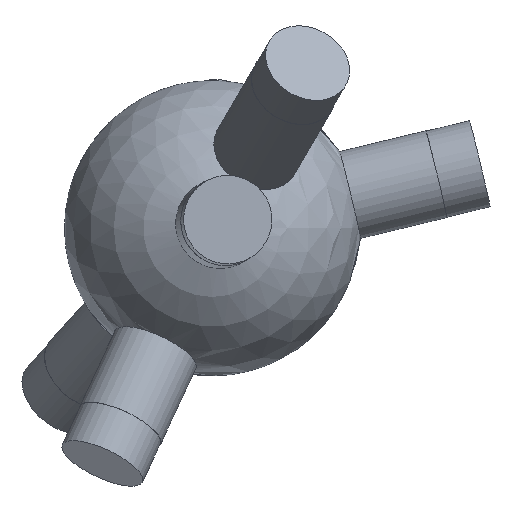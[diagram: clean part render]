
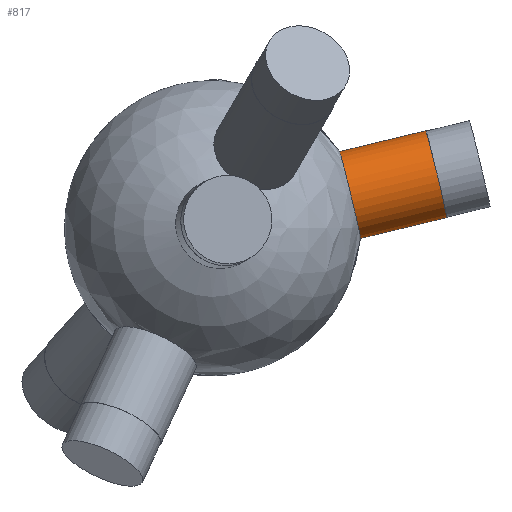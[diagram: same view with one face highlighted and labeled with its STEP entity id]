
A CAD part, top view. The second image highlights one B-rep face of the part: STEP entity #817.
In plain terms, the highlighted cylindrical face has radius 6 mm (diameter 12 mm), a full revolution.
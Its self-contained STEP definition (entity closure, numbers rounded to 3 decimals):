
#33 = SPHERICAL_SURFACE('',#34,20.);
#34 = AXIS2_PLACEMENT_3D('',#35,#36,#37);
#35 = CARTESIAN_POINT('',(0.,0.,0.));
#36 = DIRECTION('',(0.,0.,1.));
#37 = DIRECTION('',(1.,0.,-0.));
#61 = VERTEX_POINT('',#62);
#62 = CARTESIAN_POINT('',(19.694,0.,
    3.488));
#84 = EDGE_CURVE('',#85,#61,#87,.T.);
#85 = VERTEX_POINT('',#86);
#86 = CARTESIAN_POINT('',(17.138,10.304,
    -0.346));
#87 = SURFACE_CURVE('',#88,(#93,#120),.PCURVE_S1.);
#88 = CIRCLE('',#89,6.);
#89 = AXIS2_PLACEMENT_3D('',#90,#91,#92);
#90 = CARTESIAN_POINT('',(18.544,4.471,-0.346
    ));
#91 = DIRECTION('',(0.972,0.234,-0.018));
#92 = DIRECTION('',(-0.234,0.972,0.));
#93 = PCURVE('',#33,#94);
#94 = DEFINITIONAL_REPRESENTATION('',(#95),#119);
#95 = B_SPLINE_CURVE_WITH_KNOTS('',8,(#96,#97,#98,#99,#100,#101,#102,
    #103,#104,#105,#106,#107,#108,#109,#110,#111,#112,#113,#114,#115,
    #116,#117,#118),.UNSPECIFIED.,.F.,.F.,(9,7,7,9),(0.,0.612,
    1.53,2.448),.UNSPECIFIED.);
#96 = CARTESIAN_POINT('',(0.541,-0.017));
#97 = CARTESIAN_POINT('',(0.541,0.006));
#98 = CARTESIAN_POINT('',(0.539,0.029));
#99 = CARTESIAN_POINT('',(0.535,0.051));
#100 = CARTESIAN_POINT('',(0.529,0.074));
#101 = CARTESIAN_POINT('',(0.522,0.096));
#102 = CARTESIAN_POINT('',(0.512,0.117));
#103 = CARTESIAN_POINT('',(0.501,0.137));
#104 = CARTESIAN_POINT('',(0.468,0.184));
#105 = CARTESIAN_POINT('',(0.445,0.21));
#106 = CARTESIAN_POINT('',(0.418,0.233));
#107 = CARTESIAN_POINT('',(0.388,0.253));
#108 = CARTESIAN_POINT('',(0.355,0.268));
#109 = CARTESIAN_POINT('',(0.321,0.279));
#110 = CARTESIAN_POINT('',(0.285,0.285));
#111 = CARTESIAN_POINT('',(0.213,0.288));
#112 = CARTESIAN_POINT('',(0.177,0.285));
#113 = CARTESIAN_POINT('',(0.142,0.277));
#114 = CARTESIAN_POINT('',(0.108,0.264));
#115 = CARTESIAN_POINT('',(0.076,0.247));
#116 = CARTESIAN_POINT('',(0.047,0.226));
#117 = CARTESIAN_POINT('',(0.022,0.202));
#118 = CARTESIAN_POINT('',(0.,0.175));
#119 = ( GEOMETRIC_REPRESENTATION_CONTEXT(2) 
PARAMETRIC_REPRESENTATION_CONTEXT() REPRESENTATION_CONTEXT('2D SPACE',''
  ) );
#120 = PCURVE('',#121,#126);
#121 = CYLINDRICAL_SURFACE('',#122,6.);
#122 = AXIS2_PLACEMENT_3D('',#123,#124,#125);
#123 = CARTESIAN_POINT('',(0.,0.,0.));
#124 = DIRECTION('',(0.972,0.234,-0.018)
  );
#125 = DIRECTION('',(-0.234,0.972,0.)
  );
#126 = DEFINITIONAL_REPRESENTATION('',(#127),#131);
#127 = LINE('',#128,#129);
#128 = CARTESIAN_POINT('',(0.,19.079));
#129 = VECTOR('',#130,1.);
#130 = DIRECTION('',(1.,0.));
#131 = ( GEOMETRIC_REPRESENTATION_CONTEXT(2) 
PARAMETRIC_REPRESENTATION_CONTEXT() REPRESENTATION_CONTEXT('2D SPACE',''
  ) );
#133 = EDGE_CURVE('',#134,#85,#136,.T.);
#134 = VERTEX_POINT('',#135);
#135 = CARTESIAN_POINT('',(19.55,0.,
    -4.219));
#136 = SURFACE_CURVE('',#137,(#142,#169),.PCURVE_S1.);
#137 = CIRCLE('',#138,6.);
#138 = AXIS2_PLACEMENT_3D('',#139,#140,#141);
#139 = CARTESIAN_POINT('',(18.544,4.471,
    -0.346));
#140 = DIRECTION('',(0.972,0.234,-0.018)
  );
#141 = DIRECTION('',(-0.234,0.972,0.)
  );
#142 = PCURVE('',#33,#143);
#143 = DEFINITIONAL_REPRESENTATION('',(#144),#168);
#144 = B_SPLINE_CURVE_WITH_KNOTS('',8,(#145,#146,#147,#148,#149,#150,
    #151,#152,#153,#154,#155,#156,#157,#158,#159,#160,#161,#162,#163,
    #164,#165,#166,#167),.UNSPECIFIED.,.F.,.F.,(9,7,7,9),(3.843
    ,4.453,5.368,6.283),.UNSPECIFIED.);
#145 = CARTESIAN_POINT('',(0.,-0.213));
#146 = CARTESIAN_POINT('',(0.015,-0.23));
#147 = CARTESIAN_POINT('',(0.031,-0.247));
#148 = CARTESIAN_POINT('',(0.049,-0.262));
#149 = CARTESIAN_POINT('',(0.068,-0.276));
#150 = CARTESIAN_POINT('',(0.088,-0.288));
#151 = CARTESIAN_POINT('',(0.11,-0.298));
#152 = CARTESIAN_POINT('',(0.133,-0.306));
#153 = CARTESIAN_POINT('',(0.19,-0.322));
#154 = CARTESIAN_POINT('',(0.227,-0.326));
#155 = CARTESIAN_POINT('',(0.263,-0.326));
#156 = CARTESIAN_POINT('',(0.3,-0.321));
#157 = CARTESIAN_POINT('',(0.335,-0.312));
#158 = CARTESIAN_POINT('',(0.369,-0.298));
#159 = CARTESIAN_POINT('',(0.399,-0.279));
#160 = CARTESIAN_POINT('',(0.454,-0.236));
#161 = CARTESIAN_POINT('',(0.479,-0.211));
#162 = CARTESIAN_POINT('',(0.5,-0.183));
#163 = CARTESIAN_POINT('',(0.516,-0.152));
#164 = CARTESIAN_POINT('',(0.529,-0.12));
#165 = CARTESIAN_POINT('',(0.537,-0.086));
#166 = CARTESIAN_POINT('',(0.541,-0.052));
#167 = CARTESIAN_POINT('',(0.541,-0.017));
#168 = ( GEOMETRIC_REPRESENTATION_CONTEXT(2) 
PARAMETRIC_REPRESENTATION_CONTEXT() REPRESENTATION_CONTEXT('2D SPACE',''
  ) );
#169 = PCURVE('',#121,#170);
#170 = DEFINITIONAL_REPRESENTATION('',(#171),#175);
#171 = LINE('',#172,#173);
#172 = CARTESIAN_POINT('',(0.,19.079));
#173 = VECTOR('',#174,1.);
#174 = DIRECTION('',(1.,0.));
#175 = ( GEOMETRIC_REPRESENTATION_CONTEXT(2) 
PARAMETRIC_REPRESENTATION_CONTEXT() REPRESENTATION_CONTEXT('2D SPACE',''
  ) );
#202 = EDGE_CURVE('',#61,#134,#203,.T.);
#203 = SURFACE_CURVE('',#204,(#209,#227),.PCURVE_S1.);
#204 = CIRCLE('',#205,6.);
#205 = AXIS2_PLACEMENT_3D('',#206,#207,#208);
#206 = CARTESIAN_POINT('',(18.544,4.471,
    -0.346));
#207 = DIRECTION('',(0.972,0.234,-0.018)
  );
#208 = DIRECTION('',(-0.234,0.972,0.)
  );
#209 = PCURVE('',#33,#210);
#210 = DEFINITIONAL_REPRESENTATION('',(#211),#226);
#211 = B_SPLINE_CURVE_WITH_KNOTS('',7,(#212,#213,#214,#215,#216,#217,
    #218,#219,#220,#221,#222,#223,#224,#225),.UNSPECIFIED.,.F.,.F.,(8,6,
    8),(2.448,3.146,3.843),.UNSPECIFIED.);
#212 = CARTESIAN_POINT('',(6.283,0.175));
#213 = CARTESIAN_POINT('',(6.264,0.152));
#214 = CARTESIAN_POINT('',(6.248,0.126));
#215 = CARTESIAN_POINT('',(6.235,0.099));
#216 = CARTESIAN_POINT('',(6.225,0.071));
#217 = CARTESIAN_POINT('',(6.218,0.041));
#218 = CARTESIAN_POINT('',(6.215,0.011));
#219 = CARTESIAN_POINT('',(6.215,-0.048));
#220 = CARTESIAN_POINT('',(6.218,-0.078));
#221 = CARTESIAN_POINT('',(6.225,-0.108));
#222 = CARTESIAN_POINT('',(6.235,-0.136));
#223 = CARTESIAN_POINT('',(6.248,-0.164));
#224 = CARTESIAN_POINT('',(6.264,-0.189));
#225 = CARTESIAN_POINT('',(6.283,-0.213));
#226 = ( GEOMETRIC_REPRESENTATION_CONTEXT(2) 
PARAMETRIC_REPRESENTATION_CONTEXT() REPRESENTATION_CONTEXT('2D SPACE',''
  ) );
#227 = PCURVE('',#121,#228);
#228 = DEFINITIONAL_REPRESENTATION('',(#229),#233);
#229 = LINE('',#230,#231);
#230 = CARTESIAN_POINT('',(0.,19.079));
#231 = VECTOR('',#232,1.);
#232 = DIRECTION('',(1.,0.));
#233 = ( GEOMETRIC_REPRESENTATION_CONTEXT(2) 
PARAMETRIC_REPRESENTATION_CONTEXT() REPRESENTATION_CONTEXT('2D SPACE',''
  ) );
#817 = ADVANCED_FACE('',(#818),#121,.T.);
#818 = FACE_BOUND('',#819,.T.);
#819 = EDGE_LOOP('',(#820,#843,#870,#871,#872,#873));
#820 = ORIENTED_EDGE('',*,*,#821,.T.);
#821 = EDGE_CURVE('',#85,#822,#824,.T.);
#822 = VERTEX_POINT('',#823);
#823 = CARTESIAN_POINT('',(28.726,13.097,
    -0.561));
#824 = SEAM_CURVE('',#825,(#829,#836),.PCURVE_S1.);
#825 = LINE('',#826,#827);
#826 = CARTESIAN_POINT('',(-1.406,5.833,
    0.));
#827 = VECTOR('',#828,1.);
#828 = DIRECTION('',(0.972,0.234,-0.018)
  );
#829 = PCURVE('',#121,#830);
#830 = DEFINITIONAL_REPRESENTATION('',(#831),#835);
#831 = LINE('',#832,#833);
#832 = CARTESIAN_POINT('',(6.283,-0.));
#833 = VECTOR('',#834,1.);
#834 = DIRECTION('',(0.,1.));
#835 = ( GEOMETRIC_REPRESENTATION_CONTEXT(2) 
PARAMETRIC_REPRESENTATION_CONTEXT() REPRESENTATION_CONTEXT('2D SPACE',''
  ) );
#836 = PCURVE('',#121,#837);
#837 = DEFINITIONAL_REPRESENTATION('',(#838),#842);
#838 = LINE('',#839,#840);
#839 = CARTESIAN_POINT('',(0.,-0.));
#840 = VECTOR('',#841,1.);
#841 = DIRECTION('',(0.,1.));
#842 = ( GEOMETRIC_REPRESENTATION_CONTEXT(2) 
PARAMETRIC_REPRESENTATION_CONTEXT() REPRESENTATION_CONTEXT('2D SPACE',''
  ) );
#843 = ORIENTED_EDGE('',*,*,#844,.F.);
#844 = EDGE_CURVE('',#822,#822,#845,.T.);
#845 = SURFACE_CURVE('',#846,(#851,#858),.PCURVE_S1.);
#846 = CIRCLE('',#847,6.);
#847 = AXIS2_PLACEMENT_3D('',#848,#849,#850);
#848 = CARTESIAN_POINT('',(30.132,7.264,
    -0.561));
#849 = DIRECTION('',(0.972,0.234,-0.018)
  );
#850 = DIRECTION('',(-0.234,0.972,0.)
  );
#851 = PCURVE('',#121,#852);
#852 = DEFINITIONAL_REPRESENTATION('',(#853),#857);
#853 = LINE('',#854,#855);
#854 = CARTESIAN_POINT('',(0.,31.001));
#855 = VECTOR('',#856,1.);
#856 = DIRECTION('',(1.,0.));
#857 = ( GEOMETRIC_REPRESENTATION_CONTEXT(2) 
PARAMETRIC_REPRESENTATION_CONTEXT() REPRESENTATION_CONTEXT('2D SPACE',''
  ) );
#858 = PCURVE('',#859,#864);
#859 = PLANE('',#860);
#860 = AXIS2_PLACEMENT_3D('',#861,#862,#863);
#861 = CARTESIAN_POINT('',(30.132,7.264,
    -0.561));
#862 = DIRECTION('',(0.972,0.234,-0.018)
  );
#863 = DIRECTION('',(-0.234,0.972,0.)
  );
#864 = DEFINITIONAL_REPRESENTATION('',(#865),#869);
#865 = CIRCLE('',#866,6.);
#866 = AXIS2_PLACEMENT_2D('',#867,#868);
#867 = CARTESIAN_POINT('',(0.,0.));
#868 = DIRECTION('',(1.,0.));
#869 = ( GEOMETRIC_REPRESENTATION_CONTEXT(2) 
PARAMETRIC_REPRESENTATION_CONTEXT() REPRESENTATION_CONTEXT('2D SPACE',''
  ) );
#870 = ORIENTED_EDGE('',*,*,#821,.F.);
#871 = ORIENTED_EDGE('',*,*,#84,.T.);
#872 = ORIENTED_EDGE('',*,*,#202,.T.);
#873 = ORIENTED_EDGE('',*,*,#133,.T.);
